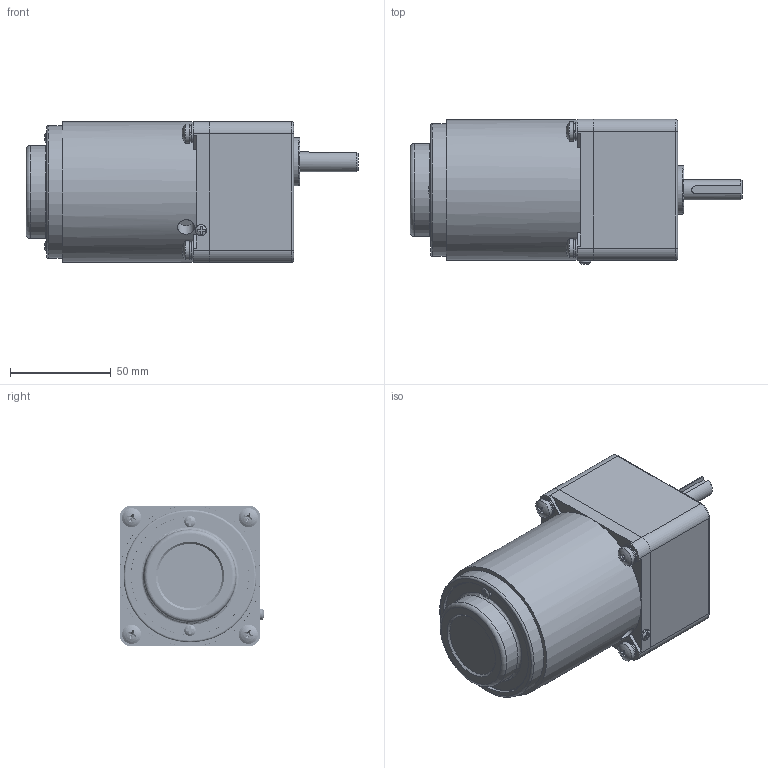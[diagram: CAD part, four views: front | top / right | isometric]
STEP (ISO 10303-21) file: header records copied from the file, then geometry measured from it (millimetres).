
FILE_DESCRIPTION(/* description */ (''),/* implementation_level */ '2;1');
FILE_NAME(/* name */ '70高箱L-15W调速.stp',/* time_stamp */ '2022-10-31T09:31:22+08:00',/* author */ (''),/* organization */ (''),/* preprocessor_version */ 'ST-DEVELOPER v16.7',/* originating_system */ 'SIEMENS PLM Software NX 1899',/* authorisation */ '');
FILE_SCHEMA (('AP203_CONFIGURATION_CONTROLLED_3D_DESIGN_OF_MECHANICAL_PARTS_AND_ASSEMBLIES_MIM_LF { 1 0 10303 403 2 1 2}'));
Products named in the file (1): yf186188FEB6lc91
Bounding box: 165 x 72.04 x 70 mm (x, y, z)
Volume: 537381.6 mm3; surface area: 63005.6 mm2
Topology: 14 solids, 17 shells, 343 faces, 863 edges, 573 vertices
Faces by surface type: plane 154, bspline 88, cylinder 71, torus 13, cone 10, sphere 7
Full cylindrical faces by diameter (mm): 2.7 x2, 4.826 x4, 5 x4, 5.3 x4, 5.6 x3, 6 x5, 8.3 x1, 9 x4, 9.5 x4, 10 x1, 24 x1, 37 x1, 46 x1, 58.6 x1, 60 x1, 63 x1, 66 x1, 66.6 x2, 70 x1
Entity records: 70119 total; most frequent: CARTESIAN_POINT 62520, ORIENTED_EDGE 1502, DIRECTION 1275, EDGE_CURVE 751, VERTEX_POINT 528, AXIS2_PLACEMENT_3D 524, EDGE_LOOP 451, ADVANCED_FACE 343
